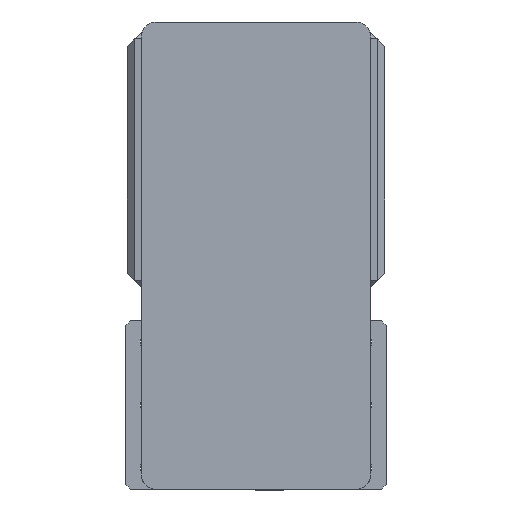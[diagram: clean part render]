
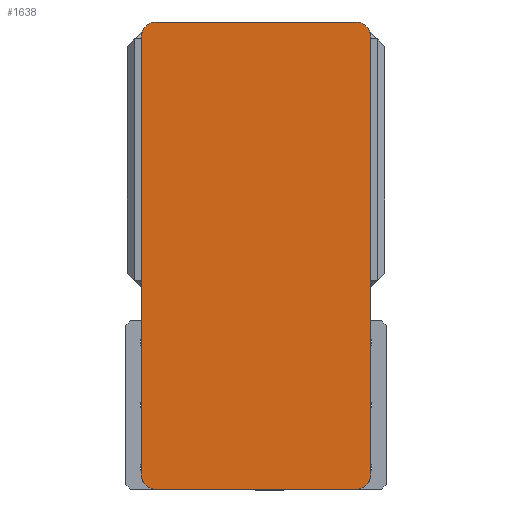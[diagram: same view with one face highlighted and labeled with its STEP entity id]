
A CAD part, left-side view. The second image highlights one B-rep face of the part: STEP entity #1638.
In plain terms, the highlighted planar face has unit normal (-1, 0, 0) as drawn and (0, 0, 1) by its records, which use the part's own axes.
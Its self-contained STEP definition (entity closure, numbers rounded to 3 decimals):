
#114 = CARTESIAN_POINT ( 'NONE',  ( 75., 152.5, 105. ) ) ;
#318 = DIRECTION ( 'NONE',  ( 0., 0., 1. ) ) ;
#504 = ORIENTED_EDGE ( 'NONE', *, *, #20180, .T. ) ;
#529 = DIRECTION ( 'NONE',  ( 0., 0., 1. ) ) ;
#535 = FACE_OUTER_BOUND ( 'NONE', #3309, .T. ) ;
#614 = CARTESIAN_POINT ( 'NONE',  ( 65., -142.5, 105. ) ) ;
#931 = CARTESIAN_POINT ( 'NONE',  ( -75., 152.5, 105. ) ) ;
#1011 = VERTEX_POINT ( 'NONE', #16280 ) ;
#1539 = AXIS2_PLACEMENT_3D ( 'NONE', #10895, #318, #12685 ) ;
#1638 = ADVANCED_FACE ( 'NONE', ( #535 ), #3809, .T. ) ;
#2016 = CIRCLE ( 'NONE', #1539, 10. ) ;
#2042 = CARTESIAN_POINT ( 'NONE',  ( 0., 0., 105. ) ) ;
#2396 = DIRECTION ( 'NONE',  ( 1., 0., 0. ) ) ;
#2702 = DIRECTION ( 'NONE',  ( -1., 0., 0. ) ) ;
#2818 = CARTESIAN_POINT ( 'NONE',  ( -75., -152.5, 105. ) ) ;
#2938 = ORIENTED_EDGE ( 'NONE', *, *, #5657, .T. ) ;
#3196 = CARTESIAN_POINT ( 'NONE',  ( -75., -142.5, 105. ) ) ;
#3309 = EDGE_LOOP ( 'NONE', ( #18457, #13454, #20100, #9681, #504, #12276, #2938, #9266 ) ) ;
#3809 = PLANE ( 'NONE',  #9926 ) ;
#4382 = CIRCLE ( 'NONE', #19735, 10. ) ;
#5596 = DIRECTION ( 'NONE',  ( 0., 0., 1. ) ) ;
#5657 = EDGE_CURVE ( 'NONE', #22414, #8962, #20820, .T. ) ;
#5795 = EDGE_CURVE ( 'NONE', #8962, #14667, #14458, .T. ) ;
#5912 = CARTESIAN_POINT ( 'NONE',  ( 75., 142.5, 105. ) ) ;
#5989 = CARTESIAN_POINT ( 'NONE',  ( 65., -152.5, 105. ) ) ;
#6527 = EDGE_CURVE ( 'NONE', #16278, #1011, #2016, .T. ) ;
#6700 = AXIS2_PLACEMENT_3D ( 'NONE', #614, #12982, #2396 ) ;
#7273 = EDGE_CURVE ( 'NONE', #14667, #16399, #8902, .T. ) ;
#8069 = DIRECTION ( 'NONE',  ( 1., 0., 0. ) ) ;
#8165 = CARTESIAN_POINT ( 'NONE',  ( -75., 142.5, 105. ) ) ;
#8402 = DIRECTION ( 'NONE',  ( 0., 0., 1. ) ) ;
#8902 = LINE ( 'NONE', #2818, #21888 ) ;
#8962 = VERTEX_POINT ( 'NONE', #3196 ) ;
#9110 = DIRECTION ( 'NONE',  ( 0., -1., 0. ) ) ;
#9266 = ORIENTED_EDGE ( 'NONE', *, *, #5795, .T. ) ;
#9681 = ORIENTED_EDGE ( 'NONE', *, *, #6527, .T. ) ;
#9844 = VECTOR ( 'NONE', #2702, 1000. ) ;
#9926 = AXIS2_PLACEMENT_3D ( 'NONE', #2042, #5596, #17938 ) ;
#10284 = VERTEX_POINT ( 'NONE', #11879 ) ;
#10882 = CARTESIAN_POINT ( 'NONE',  ( -75., 152.5, 105. ) ) ;
#10895 = CARTESIAN_POINT ( 'NONE',  ( 65., 142.5, 105. ) ) ;
#11105 = CARTESIAN_POINT ( 'NONE',  ( -65., -142.5, 105. ) ) ;
#11265 = EDGE_CURVE ( 'NONE', #16399, #10284, #18201, .T. ) ;
#11424 = VECTOR ( 'NONE', #9110, 1000. ) ;
#11709 = EDGE_CURVE ( 'NONE', #17089, #22414, #4382, .T. ) ;
#11879 = CARTESIAN_POINT ( 'NONE',  ( 75., -142.5, 105. ) ) ;
#12276 = ORIENTED_EDGE ( 'NONE', *, *, #11709, .T. ) ;
#12685 = DIRECTION ( 'NONE',  ( 1., 0., 0. ) ) ;
#12884 = DIRECTION ( 'NONE',  ( 1., 0., 0. ) ) ;
#12982 = DIRECTION ( 'NONE',  ( 0., 0., 1. ) ) ;
#13382 = CARTESIAN_POINT ( 'NONE',  ( -65., -152.5, 105. ) ) ;
#13408 = DIRECTION ( 'NONE',  ( 1., 0., 0. ) ) ;
#13454 = ORIENTED_EDGE ( 'NONE', *, *, #11265, .T. ) ;
#14232 = DIRECTION ( 'NONE',  ( 0., 1., 0. ) ) ;
#14285 = LINE ( 'NONE', #114, #18413 ) ;
#14458 = CIRCLE ( 'NONE', #20175, 10. ) ;
#14667 = VERTEX_POINT ( 'NONE', #13382 ) ;
#16278 = VERTEX_POINT ( 'NONE', #5912 ) ;
#16280 = CARTESIAN_POINT ( 'NONE',  ( 65., 152.5, 105. ) ) ;
#16399 = VERTEX_POINT ( 'NONE', #5989 ) ;
#17089 = VERTEX_POINT ( 'NONE', #21238 ) ;
#17938 = DIRECTION ( 'NONE',  ( 1., 0., 0. ) ) ;
#18201 = CIRCLE ( 'NONE', #6700, 10. ) ;
#18413 = VECTOR ( 'NONE', #14232, 1000. ) ;
#18457 = ORIENTED_EDGE ( 'NONE', *, *, #7273, .T. ) ;
#18990 = CARTESIAN_POINT ( 'NONE',  ( -65., 142.5, 105. ) ) ;
#19251 = LINE ( 'NONE', #931, #9844 ) ;
#19735 = AXIS2_PLACEMENT_3D ( 'NONE', #18990, #8402, #13408 ) ;
#19746 = EDGE_CURVE ( 'NONE', #10284, #16278, #14285, .T. ) ;
#20100 = ORIENTED_EDGE ( 'NONE', *, *, #19746, .T. ) ;
#20175 = AXIS2_PLACEMENT_3D ( 'NONE', #11105, #529, #12884 ) ;
#20180 = EDGE_CURVE ( 'NONE', #1011, #17089, #19251, .T. ) ;
#20820 = LINE ( 'NONE', #10882, #11424 ) ;
#21238 = CARTESIAN_POINT ( 'NONE',  ( -65., 152.5, 105. ) ) ;
#21888 = VECTOR ( 'NONE', #8069, 1000. ) ;
#22414 = VERTEX_POINT ( 'NONE', #8165 ) ;
